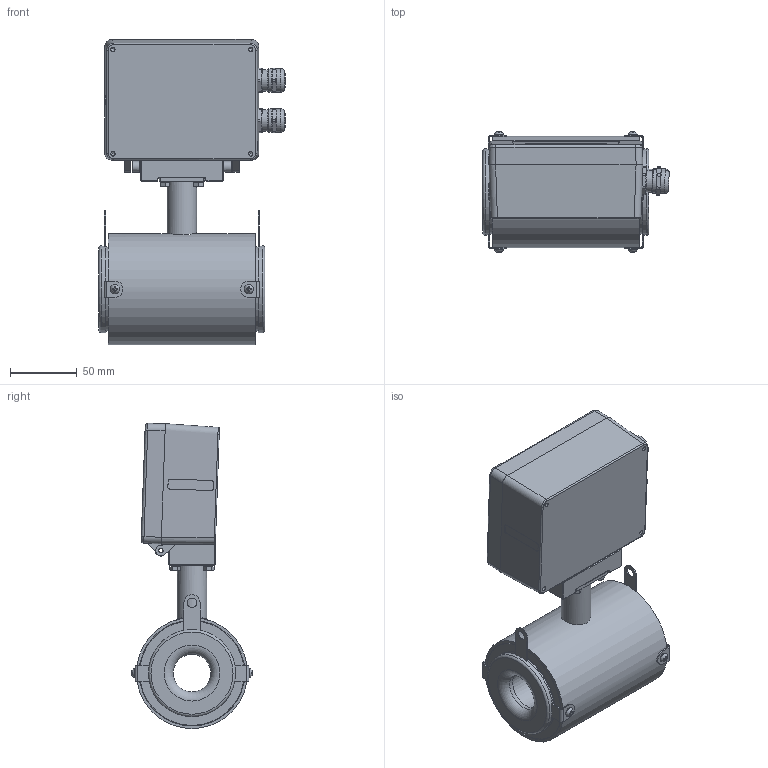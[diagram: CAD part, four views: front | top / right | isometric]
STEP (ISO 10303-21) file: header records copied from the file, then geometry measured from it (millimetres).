
FILE_DESCRIPTION(('STEP AP203'), '1');
FILE_NAME('Âçëåò ÝÌ ÏÐÎÔÈ DN32 Ñýíäâè÷', '', ('UNSPECIFIED'), ('UNSPECIFIED'), 'C3D Converter', 'C3D Toolkit', '');
FILE_SCHEMA(('CONFIG_CONTROL_DESIGN'));
Length unit declared in the file: millimetre
Products named in the file (1): ШКСД.407212.004-002-03
Bounding box: 139.22 x 90.3 x 228.17 mm (x, y, z)
Volume: 239773.9 mm3; surface area: 206976.4 mm2
Topology: 1 solids, 10 shells, 907 faces, 2198 edges, 1377 vertices
Faces by surface type: plane 448, cylinder 266, cone 89, bspline 68, torus 32, sphere 4
Full cylindrical faces by diameter (mm): 0.8 x1, 3.242 x18, 3.422 x2, 4 x10, 4.134 x1, 4.5 x10, 4.917 x2, 5 x4, 6 x4, 6.2 x2, 7 x6, 7.5 x4, 8.7 x2, 12 x4, 15 x4, 16 x8, 16.3 x2, 17.5 x4, 19 x2, 20.2 x1, 22 x1, 26 x2, 29 x1, 40 x2, 41 x1, 42 x1, 63 x2, 65 x2, 76 x2, 78 x1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
Entity records: 50297 total; most frequent: CARTESIAN_POINT 23028, DIRECTION 3971, ORIENTED_EDGE 3944, EDGE_CURVE 1978, AXIS2_PLACEMENT_3D 1520, VERTEX_POINT 1358, EDGE_LOOP 1230, FACE_BOUND 937
